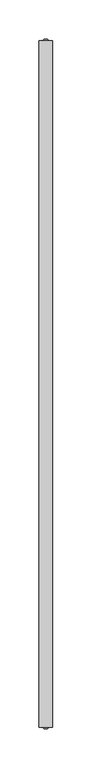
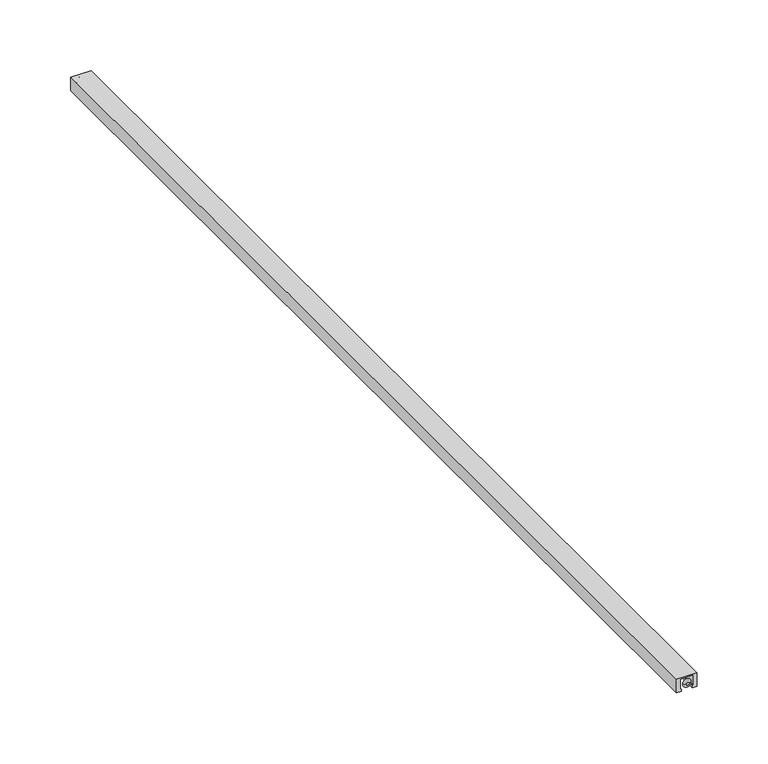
"""IFC4 building model written with IfcOpenShell, lengths in millimetres: proxy geometry, HAFELE^BUS BAR LIGHT_ALUMINUM EXTRUSION-LIGHT BAR (MOD LENGTH 34.375)."""

from ifc_helpers import new_model, si_unit, point, frame, origin, origin_with_axes, place, context, project, spatial, polyline, circle_curve, ellipse_curve, trimmed, outline, extrude, source, transform, mapped, element, save
from ifc_brep_helpers import plane_surface, revolved_surface, advanced_brep


def generic_models_d0b22e00(model_context):
    return source(origin(), model_context, "Body", "SolidModel", [
        extrude(outline(polyline([(13.9, 835.025), (13.9, 38.1), (3.1, 38.1), (3.1, 835.025), (13.9, 835.025)])), frame((0.0, 0.0, -0.05), z_axis=(0.0, 0.0, 1.0), x_axis=(1.0, 0.0, 0.0)), (0.0, 0.0, 1.0), 1.05),
        advanced_brep(
        [(12.0, 873.125, 6.0), (10.0430013, 874.7125, 6.0), (6.9569987, 874.7125, 6.0), (5.0, 873.125, 6.0)],
        [
            (0, 1, circle_curve(frame((10.0430013, 872.7125, 6.0), z_axis=(0.0, 0.0, 1.0), x_axis=(1.0, 0.0, 0.0)), 2.0)),
            (1, 2, circle_curve(frame((8.5, 874.7125, 6.0), z_axis=(0.0, -1.0, 0.0), x_axis=(1.0, 0.0, 0.0)), 1.5430013)),
            (2, 3, circle_curve(frame((6.9569987, 872.7125, 6.0), z_axis=(0.0, 0.0, 1.0), x_axis=(-1.0, 0.0, 0.0)), 2.0)),
            (3, 0, circle_curve(frame((8.5, 873.125, 6.0), z_axis=(0.0, 1.0, 0.0), x_axis=(1.0, 0.0, 0.0)), 3.5)),
            (0, 3, circle_curve(frame((8.5, 873.125, 6.0), z_axis=(0.0, 1.0, 0.0), x_axis=(-1.0, 0.0, 0.0)), 3.5)),
            (2, 1, circle_curve(frame((8.5, 874.7125, 6.0), z_axis=(0.0, -1.0, 0.0), x_axis=(-1.0, 0.0, 0.0)), 1.5430013)),
        ],
        [
            revolved_surface(trimmed(ellipse_curve(frame((10.0430013, 872.7125, 6.0), z_axis=(0.0, 0.0, -1.0), x_axis=(1.0, 0.0, 0.0)), 2.0, 2.0), [point((10.0430013, 874.7125, 6.0))], [point((12.0, 873.125, 6.0))], True, "CARTESIAN"), (8.5, 872.7125, 6.0), (0.0, -1.0, 0.0)),
            revolved_surface(trimmed(ellipse_curve(frame((6.9569987, 872.7125, 6.0), z_axis=(0.0, 0.0, 1.0), x_axis=(-1.0, 0.0, 0.0)), 2.0, 2.0), [point((6.9569987, 874.7125, 6.0))], [point((5.0, 873.125, 6.0))], True, "CARTESIAN"), (8.5, 872.7125, 6.0), (0.0, -1.0, 0.0)),
            plane_surface(frame((8.5, 874.7125, 6.0), z_axis=(0.0, 1.0, 0.0), x_axis=(0.0, 0.0, 1.0))),
            plane_surface(frame((8.5, 873.125, 6.0), z_axis=(0.0, -1.0, 0.0), x_axis=(0.0, 0.0, 1.0))),
        ],
        [
            (0, [[1, 2, 3, 4]]),
            (1, [[-1, 5, -3, 6]]),
            (2, [[-6, -2]]),
            (3, [[-4, -5]]),
        ],
    ),
        advanced_brep(
        [(12.0, 0.0, 6.0), (10.0430013, -1.5875, 6.0), (6.9569987, -1.5875, 6.0), (5.0, 0.0, 6.0)],
        [
            (0, 1, circle_curve(frame((10.0430013, 0.4125, 6.0), z_axis=(0.0, 0.0, -1.0), x_axis=(1.0, 0.0, 0.0)), 2.0)),
            (1, 2, circle_curve(frame((8.5, -1.5875, 6.0), z_axis=(0.0, 1.0, 0.0), x_axis=(1.0, 0.0, 0.0)), 1.5430013)),
            (2, 3, circle_curve(frame((6.9569987, 0.4125, 6.0), z_axis=(0.0, 0.0, -1.0), x_axis=(-1.0, 0.0, 0.0)), 2.0)),
            (3, 0, circle_curve(frame((8.5, 0.0, 6.0), z_axis=(0.0, -1.0, 0.0), x_axis=(1.0, 0.0, 0.0)), 3.5)),
            (0, 3, circle_curve(frame((8.5, 0.0, 6.0), z_axis=(0.0, -1.0, 0.0), x_axis=(-1.0, 0.0, 0.0)), 3.5)),
            (2, 1, circle_curve(frame((8.5, -1.5875, 6.0), z_axis=(0.0, 1.0, 0.0), x_axis=(-1.0, 0.0, 0.0)), 1.5430013)),
        ],
        [
            revolved_surface(trimmed(ellipse_curve(frame((10.0430013, 0.4125, 6.0), z_axis=(0.0, 0.0, 1.0), x_axis=(1.0, 0.0, 0.0)), 2.0, 2.0), [point((10.0430013, -1.5875, 6.0))], [point((12.0, 0.0, 6.0))], True, "CARTESIAN"), (8.5, 0.4125, 6.0), (0.0, 1.0, 0.0)),
            revolved_surface(trimmed(ellipse_curve(frame((6.9569987, 0.4125, 6.0), z_axis=(0.0, 0.0, -1.0), x_axis=(-1.0, 0.0, 0.0)), 2.0, 2.0), [point((6.9569987, -1.5875, 6.0))], [point((5.0, 0.0, 6.0))], True, "CARTESIAN"), (8.5, 0.4125, 6.0), (0.0, 1.0, 0.0)),
            plane_surface(frame((8.5, -1.5875, 6.0), z_axis=(0.0, -1.0, 0.0), x_axis=(0.0, 0.0, -1.0))),
            plane_surface(frame((8.5, 0.0, 6.0), z_axis=(0.0, 1.0, 0.0), x_axis=(0.0, 0.0, -1.0))),
        ],
        [
            (0, [[1, 2, 3, 4]]),
            (1, [[-1, 5, -3, 6]]),
            (2, [[-6, -2]]),
            (3, [[-4, -5]]),
        ],
    ),
        extrude(outline(polyline([(0.0, 13.0), (0.0, 17.0), (12.0, 17.0), (12.0, 0.0), (0.0, 0.0), (0.0, 4.0), (2.0, 4.0), (2.0, 3.0), (11.0, 3.0), (11.0, 14.0), (2.0, 14.0), (2.0, 13.0), (0.0, 13.0)])), frame((0.0, 0.0, 0.0), z_axis=(0.0, 1.0, 0.0), x_axis=(0.0, 0.0, 1.0)), (0.0, 0.0, 1.0), 873.125),
        extrude(outline(polyline([(3.0, 873.125), (14.0, 873.125), (14.0, 835.025), (3.0, 835.025), (3.0, 873.125)])), origin_with_axes(), (0.0, 0.0, 1.0), 11.0),
    ])


if __name__ == "__main__":
    model = new_model("IFC4")
    model_context = context("Model", 3, world=origin())
    ifc_project = project(units=[si_unit("LENGTHUNIT", "METRE", prefix="MILLI")], contexts=[model_context])
    site = spatial("IfcSite", under=ifc_project)
    building = spatial("IfcBuilding", under=site)
    placement = place(None, origin())
    generic_models_shape = generic_models_d0b22e00(model_context)
    element("IfcBuildingElementProxy", 1, Name="HAFELE^BUS BAR LIGHT_ALUMINUM EXTRUSION-LIGHT BAR (MOD LENGTH 34.375)", ObjectType="HAFELE^BUS BAR LIGHT_ALUMINUM EXTRUSION-LIGHT BAR (MOD LENGTH 34.375)", at=placement, inside=building, context=model_context, shape_type="MappedRepresentation", body=[
        mapped(generic_models_shape, transform((0.0, 0.0, 0.0), x_axis=(1.0, 0.0, 0.0), y_axis=(0.0, 1.0, 0.0), z_axis=(0.0, 0.0, 1.0))),
    ])
    save(model, "model.ifc")
